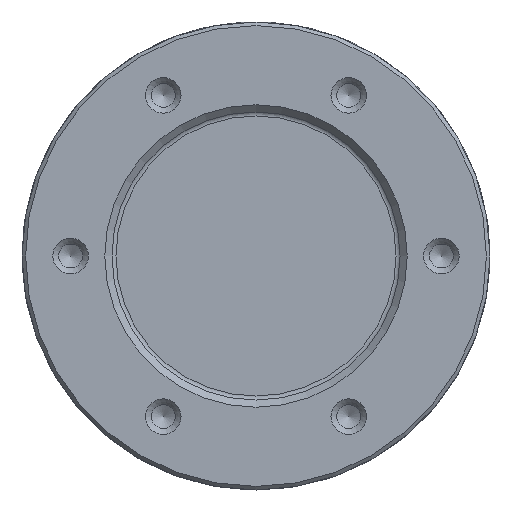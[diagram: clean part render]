
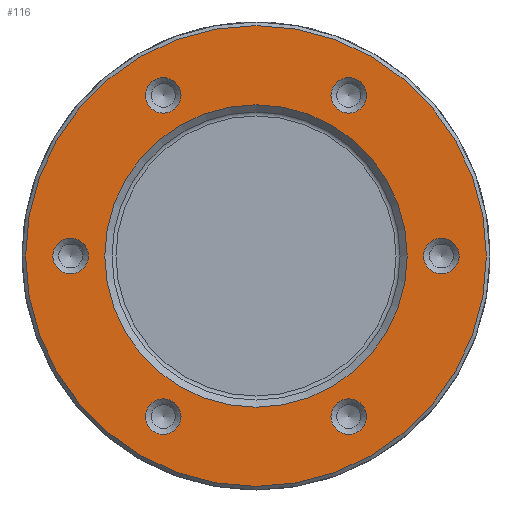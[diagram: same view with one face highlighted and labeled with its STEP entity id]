
A CAD part, front view. The second image highlights one B-rep face of the part: STEP entity #116.
In plain terms, the highlighted planar face has unit normal (0, -1, 0).
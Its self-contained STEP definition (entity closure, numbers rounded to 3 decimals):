
#116=ADVANCED_FACE('',(#852,#854,#856,#858,#860,#862,#864,#866),#868,.F.);
#852=FACE_BOUND('',#853,.T.);
#853=EDGE_LOOP('',(#1516));
#854=FACE_BOUND('',#855,.T.);
#855=EDGE_LOOP('',(#1517));
#856=FACE_BOUND('',#857,.T.);
#857=EDGE_LOOP('',(#1518));
#858=FACE_BOUND('',#859,.T.);
#859=EDGE_LOOP('',(#1519));
#860=FACE_BOUND('',#861,.T.);
#861=EDGE_LOOP('',(#1520));
#862=FACE_BOUND('',#863,.T.);
#863=EDGE_LOOP('',(#1521));
#864=FACE_BOUND('',#865,.T.);
#865=EDGE_LOOP('',(#1522));
#866=FACE_BOUND('',#867,.T.);
#867=EDGE_LOOP('',(#1523));
#868=PLANE('',#869);
#869=AXIS2_PLACEMENT_3D('',#870,#871,#872);
#870=CARTESIAN_POINT('',(0.,0.,0.));
#871=DIRECTION('',(0.,1.,0.));
#872=DIRECTION('',(-1.,0.,0.));
#1516=ORIENTED_EDGE('',*,*,#1719,.F.);
#1517=ORIENTED_EDGE('',*,*,#1718,.T.);
#1518=ORIENTED_EDGE('',*,*,#1720,.T.);
#1519=ORIENTED_EDGE('',*,*,#1721,.T.);
#1520=ORIENTED_EDGE('',*,*,#1722,.T.);
#1521=ORIENTED_EDGE('',*,*,#1723,.T.);
#1522=ORIENTED_EDGE('',*,*,#1724,.T.);
#1523=ORIENTED_EDGE('',*,*,#1725,.T.);
#1718=EDGE_CURVE('',#1830,#1830,#1831,.T.);
#1719=EDGE_CURVE('',#1832,#1832,#1833,.T.);
#1720=EDGE_CURVE('',#1834,#1834,#1835,.F.);
#1721=EDGE_CURVE('',#1836,#1836,#1837,.F.);
#1722=EDGE_CURVE('',#1838,#1838,#1839,.F.);
#1723=EDGE_CURVE('',#1840,#1840,#1841,.F.);
#1724=EDGE_CURVE('',#1842,#1842,#1843,.F.);
#1725=EDGE_CURVE('',#1844,#1844,#1845,.F.);
#1830=VERTEX_POINT('',#2049);
#1831=CIRCLE('',#2050,42.);
#1832=VERTEX_POINT('',#2054);
#1833=CIRCLE('',#2055,64.);
#1834=VERTEX_POINT('',#2059);
#1835=CIRCLE('',#2060,4.923);
#1836=VERTEX_POINT('',#2064);
#1837=CIRCLE('',#2065,4.923);
#1838=VERTEX_POINT('',#2069);
#1839=CIRCLE('',#2070,4.923);
#1840=VERTEX_POINT('',#2074);
#1841=CIRCLE('',#2075,4.923);
#1842=VERTEX_POINT('',#2079);
#1843=CIRCLE('',#2080,4.923);
#1844=VERTEX_POINT('',#2084);
#1845=CIRCLE('',#2085,4.923);
#2049=CARTESIAN_POINT('',(0.,0.,42.));
#2050=AXIS2_PLACEMENT_3D('',#2051,#2052,#2053);
#2051=CARTESIAN_POINT('',(0.,0.,0.));
#2052=DIRECTION('',(0.,1.,0.));
#2053=DIRECTION('',(0.,0.,1.));
#2054=CARTESIAN_POINT('',(-64.,0.,0.));
#2055=AXIS2_PLACEMENT_3D('',#2056,#2057,#2058);
#2056=CARTESIAN_POINT('',(0.,0.,0.));
#2057=DIRECTION('',(0.,1.,0.));
#2058=DIRECTION('',(-1.,0.,0.));
#2059=CARTESIAN_POINT('',(28.212,0.,-48.864));
#2060=AXIS2_PLACEMENT_3D('',#2061,#2062,#2063);
#2061=CARTESIAN_POINT('',(25.75,0.,-44.6));
#2062=DIRECTION('',(-0.,-1.,0.));
#2063=DIRECTION('',(0.5,0.,-0.866));
#2064=CARTESIAN_POINT('',(-28.212,0.,-48.864));
#2065=AXIS2_PLACEMENT_3D('',#2066,#2067,#2068);
#2066=CARTESIAN_POINT('',(-25.75,0.,-44.6));
#2067=DIRECTION('',(-0.,-1.,0.));
#2068=DIRECTION('',(-0.5,0.,-0.866));
#2069=CARTESIAN_POINT('',(-56.423,0.,0.));
#2070=AXIS2_PLACEMENT_3D('',#2071,#2072,#2073);
#2071=CARTESIAN_POINT('',(-51.5,0.,0.));
#2072=DIRECTION('',(-0.,-1.,0.));
#2073=DIRECTION('',(-1.,0.,0.));
#2074=CARTESIAN_POINT('',(-28.212,0.,48.864));
#2075=AXIS2_PLACEMENT_3D('',#2076,#2077,#2078);
#2076=CARTESIAN_POINT('',(-25.75,0.,44.6));
#2077=DIRECTION('',(-0.,-1.,0.));
#2078=DIRECTION('',(-0.5,0.,0.866));
#2079=CARTESIAN_POINT('',(28.212,0.,48.864));
#2080=AXIS2_PLACEMENT_3D('',#2081,#2082,#2083);
#2081=CARTESIAN_POINT('',(25.75,0.,44.6));
#2082=DIRECTION('',(-0.,-1.,0.));
#2083=DIRECTION('',(0.5,0.,0.866));
#2084=CARTESIAN_POINT('',(56.423,0.,0.));
#2085=AXIS2_PLACEMENT_3D('',#2086,#2087,#2088);
#2086=CARTESIAN_POINT('',(51.5,0.,0.));
#2087=DIRECTION('',(-0.,-1.,0.));
#2088=DIRECTION('',(1.,0.,0.));
